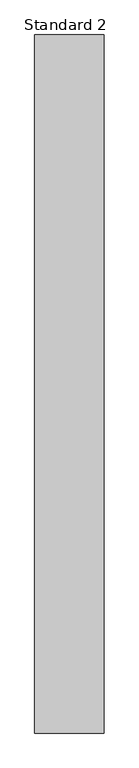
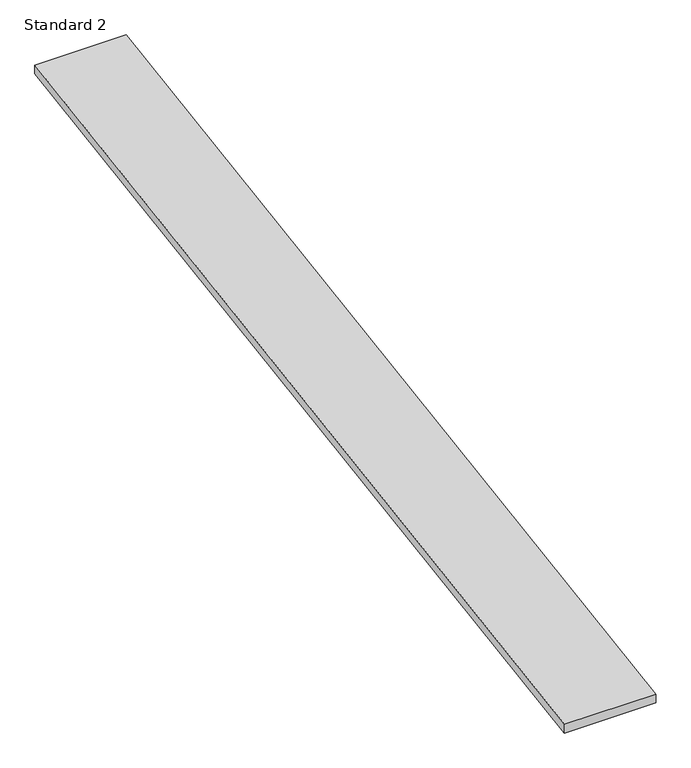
"""IFC4 building model written with IfcOpenShell, lengths in millimetres: ramp geometry, Standard 2."""

from ifc_helpers import new_model, si_unit, frame, origin, place, context, project, spatial, polyline, outline, extrude, source, transform, mapped, element, save


def standard_2_a2f922cc(model_context):
    return source(origin(), model_context, "Body", "SweptSolid", [
        extrude(outline(polyline([(11247.200745, 1000.0), (26307.200745, 3300.0), (26307.200745, 3148.2607722), (11247.200745, 848.2607722), (11247.200745, 1000.0)])), frame((-13331.6874983, 0.0, 0.0), z_axis=(1.0, 0.0, 0.0), x_axis=(0.0, 1.0, 0.0)), (0.0, 0.0, 1.0), 1500.0),
    ])


if __name__ == "__main__":
    model = new_model("IFC4")
    model_context = context("Model", 3, world=origin())
    ifc_project = project(units=[si_unit("LENGTHUNIT", "METRE", prefix="MILLI")], contexts=[model_context])
    site = spatial("IfcSite", under=ifc_project)
    building = spatial("IfcBuilding", under=site)
    placement = place(None, origin())
    standard_2_shape = standard_2_a2f922cc(model_context)
    element("IfcRamp", 1, ObjectType="Standard 2", at=placement, inside=building, context=model_context, shape_type="MappedRepresentation", body=[
        mapped(standard_2_shape, transform((0.0, 0.0, 0.0), x_axis=(1.0, 0.0, 0.0), y_axis=(0.0, 1.0, 0.0), z_axis=(0.0, 0.0, 1.0))),
    ])
    save(model, "model.ifc")
